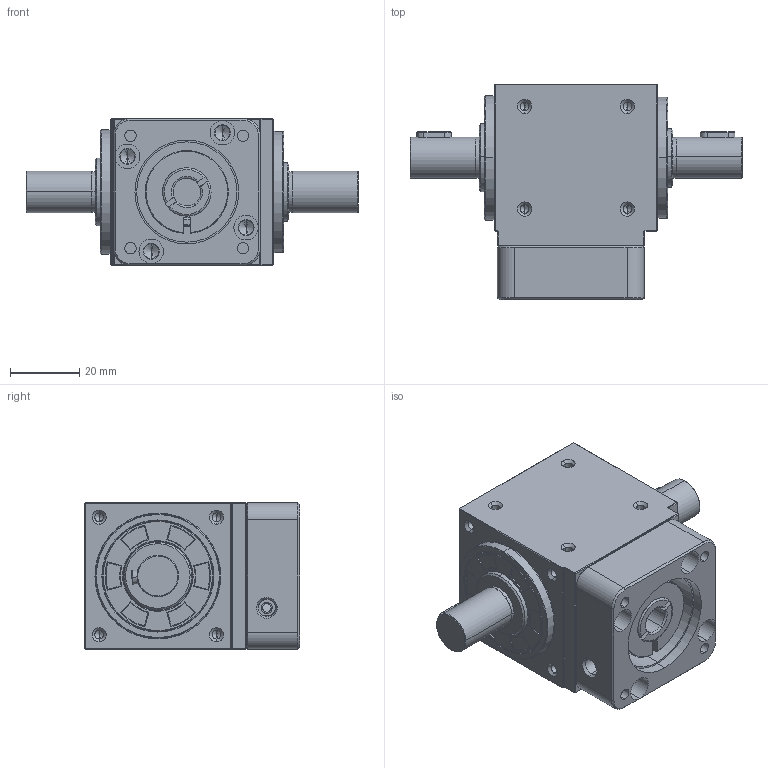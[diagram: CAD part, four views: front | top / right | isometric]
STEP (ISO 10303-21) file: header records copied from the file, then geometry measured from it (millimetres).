
FILE_DESCRIPTION (( 'STEP AP203' ), '1' );
FILE_NAME ('RAD-42_媼掀瞎磁璃.STEP', '2016-05-20T07:06:42', ( '' ), ( '' ), 'SwSTEP 2.0', 'SolidWorks 2015', '' );
FILE_SCHEMA (( 'CONFIG_CONTROL_DESIGN' ));
Length unit declared in the file: millimetre
Products named in the file (13): RA-42倰_嘐隅眊楊帗_2掀; RA-42倰_褞堤薯嵞; 蚐猾_VC 15-25-4; RA-42型_傘型斜齒輪_2比_23T; RA-42型_傘型斜齒輪_2比_46T; 嵞創6804_20-32-7; 人工軸套_25-14-11; 嵞創6802_15-28-5; RAD-42_媼掀瞎磁璃; 內扣環-34-1.3_B27.7M - 3BM1-34; RA-42倰_嘐隅眊; 雙頭圓鍵_4-4-10; 蚐猾_SC 20-32-5
Assembly tree (14 placements, depth 2):
  RAD-42_媼掀瞎磁璃
    RA-42倰_嘐隅眊
    RA-42倰_嘐隅眊楊帗_2掀
    RA-42倰_褞堤薯嵞
    RA-42型_傘型斜齒輪_2比_23T
    RA-42型_傘型斜齒輪_2比_46T
    蚐猾_SC 20-32-5
    蚐猾_VC 15-25-4
    嵞創6804_20-32-7  x2
    嵞創6802_15-28-5
    內扣環-34-1.3_B27.7M - 3BM1-34
    人工軸套_25-14-11
    雙頭圓鍵_4-4-10  x2
Bounding box: 96 x 62.25 x 42.5 mm (x, y, z)
Volume: 104200.9 mm3; surface area: 56377.6 mm2
Topology: 17 solids, 17 shells, 770 faces, 1728 edges, 1024 vertices
Faces by surface type: cylinder 306, plane 189, cone 184, torus 89, bspline 2
Entity records: 22576 total; most frequent: CARTESIAN_POINT 4818, DIRECTION 3719, ORIENTED_EDGE 3140, EDGE_CURVE 1570, AXIS2_PLACEMENT_3D 1516, VERTEX_POINT 963, EDGE_LOOP 853, CIRCLE 780
